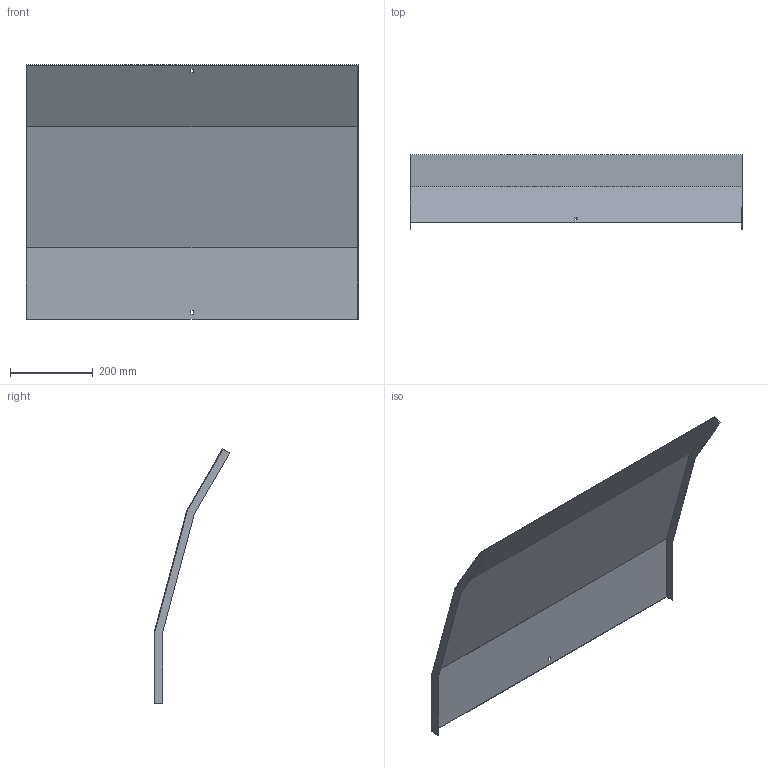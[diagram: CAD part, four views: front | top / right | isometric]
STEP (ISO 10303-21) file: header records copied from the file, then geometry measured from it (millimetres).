
FILE_DESCRIPTION (( 'STEP AP214' ), '1' );
FILE_NAME ('35N5F800.step', '2025-02-21T14:24:30', ( '' ), ( '' ), 'SwSTEP 2.0', 'SolidWorks 2023', '' );
FILE_SCHEMA (( 'AUTOMOTIVE_DESIGN' ));
Length unit declared in the file: millimetre
Products named in the file (1): 35N5F800
Bounding box: 803 x 182.13 x 615.07 mm (x, y, z)
Volume: 816185.2 mm3; surface area: 1092775.1 mm2
Topology: 1 solids, 1 shells, 26 faces, 72 edges, 48 vertices
Faces by surface type: plane 26
Entity records: 847 total; most frequent: CARTESIAN_POINT 147, ORIENTED_EDGE 144, DIRECTION 126, VECTOR 72, EDGE_CURVE 72, LINE 72, VERTEX_POINT 48, EDGE_LOOP 30
